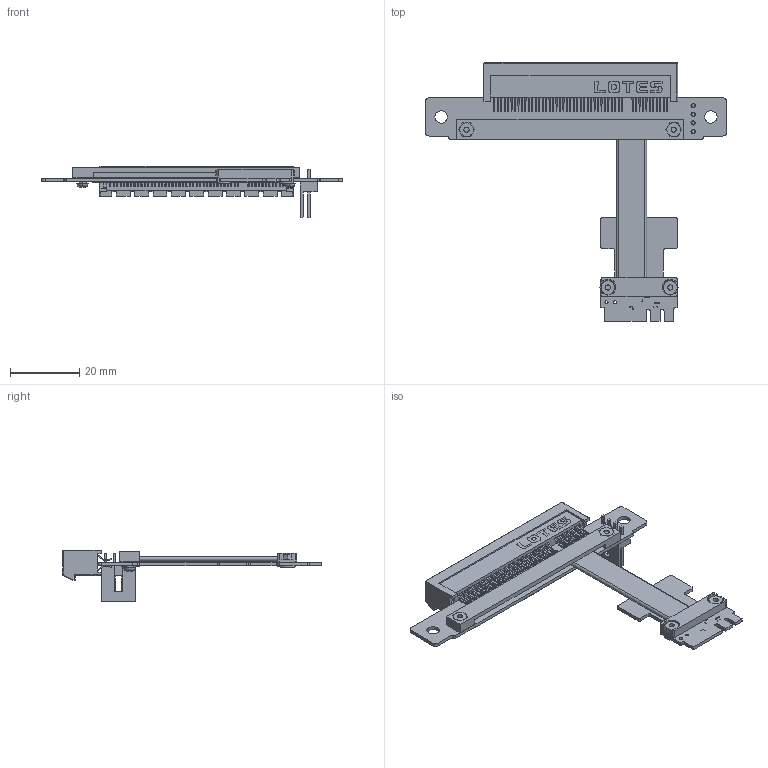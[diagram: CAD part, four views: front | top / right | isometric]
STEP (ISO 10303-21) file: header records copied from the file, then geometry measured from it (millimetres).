
FILE_DESCRIPTION(('Open CASCADE Model'),'2;1');
FILE_NAME('Open CASCADE Shape Model','2020-09-06T11:20:50',('Author'),( 'Open CASCADE'),'Open CASCADE STEP processor 6.8','Open CASCADE 6.8' ,'Unknown');
FILE_SCHEMA(('AUTOMOTIVE_DESIGN { 1 0 10303 214 1 1 1 1 }'));
Length unit declared in the file: millimetre
Products named in the file (41): PCB; Board; Open CASCADE STEP translator 6.8 1.1.1; CN4_1; PCIe_x8_3D_RGB4404530; Free-Models; cable13pin-43n-20161231_RGB4078660; Tape28x5_RGB0; G0033_RGB9411503; Hexagon_nut_ISO_4032_(DIN_934)_-_M2_RGB9411503; R8S-PAD-20170526; c-171825-4-y-3d_RGB12967653; G0030_RGB9411503; RP55S-PAD; Tape14x5_RGB0
Assembly tree (46 placements, depth 3):
  PCB
    Board
      Open CASCADE STEP translator 6.8 1.1.1
    CN4_1
      PCIe_x8_3D_RGB4404530
    Free-Models
      cable13pin-43n-20161231_RGB4078660
      cable13pin-43n-20161231_RGB4078660
      cable13pin-43n-20161231_RGB4078660
      cable13pin-43n-20161231_RGB4078660
      cable13pin-43n-20161231_RGB4078660
      cable13pin-43n-20161231_RGB4078660
      cable13pin-43n-20161231_RGB4078660
      cable13pin-43n-20161231_RGB4078660
      cable13pin-43n-20161231_RGB4078660
      cable13pin-43n-20161231_RGB4078660
      cable13pin-43n-20161231_RGB4078660
      cable13pin-43n-20161231_RGB4078660
      cable13pin-43n-20161231_RGB4078660
      cable13pin-43n-20161231_RGB4078660
      cable13pin-43n-20161231_RGB4078660
      cable13pin-43n-20161231_RGB4078660
      cable13pin-43n-20161231_RGB4078660
      cable13pin-43n-20161231_RGB4078660
      cable13pin-43n-20161231_RGB4078660
      cable13pin-43n-20161231_RGB4078660
      cable13pin-43n-20161231_RGB4078660
      cable13pin-43n-20161231_RGB4078660
      cable13pin-43n-20161231_RGB4078660
      cable13pin-43n-20161231_RGB4078660
      cable13pin-43n-20161231_RGB4078660
      cable13pin-43n-20161231_RGB4078660
      cable13pin-43n-20161231_RGB4078660
      Tape28x5_RGB0  x2
      G0033_RGB9411503  x2
      Hexagon_nut_ISO_4032_(DIN_934)_-_M2_RGB9411503  x4
      R8S-PAD-20170526
      c-171825-4-y-3d_RGB12967653
      G0030_RGB9411503  x2
      RP55S-PAD
      Tape14x5_RGB0
Bounding box: 87.08 x 74.83 x 14.97 mm (x, y, z)
Volume: 6573.8 mm3; surface area: 12460.4 mm2
Topology: 43 solids, 43 shells, 4874 faces, 12101 edges, 7436 vertices
Faces by surface type: plane 2662, cylinder 1531, bspline 596, cone 48, torus 26, sphere 7, revolution 4
Full cylindrical faces by diameter (mm): 0.254 x16, 0.4 x65, 0.6 x100, 0.9 x2, 1.2 x4, 2.2 x8, 3.6 x2, 4 x2
Entity records: 184359 total; most frequent: CARTESIAN_POINT 35614, ORIENTED_EDGE 23564, DIRECTION 19106, EDGE_CURVE 11782, LINE 7406, VECTOR 7406, VERTEX_POINT 7241, AXIS2_PLACEMENT_3D 5849
